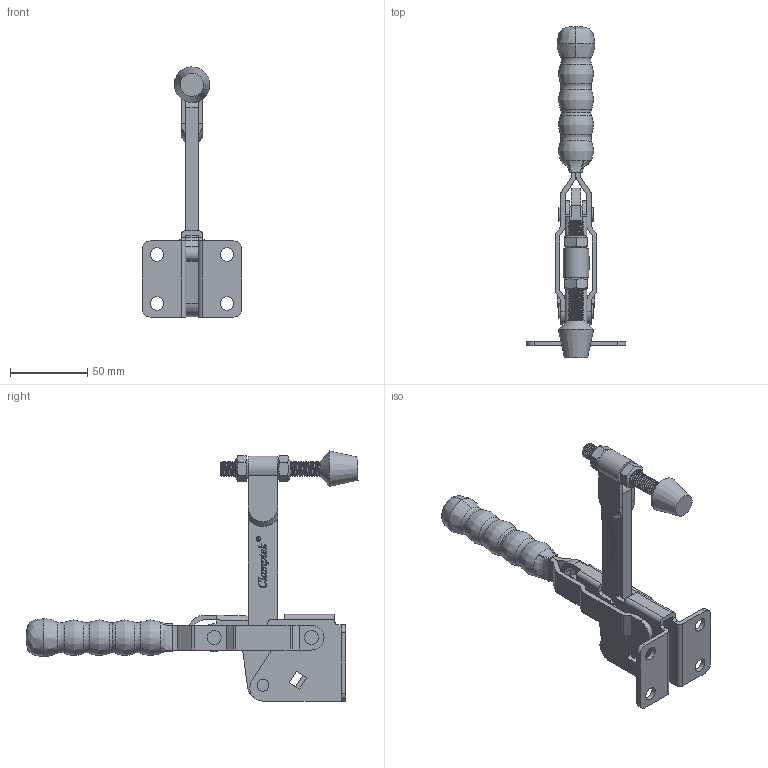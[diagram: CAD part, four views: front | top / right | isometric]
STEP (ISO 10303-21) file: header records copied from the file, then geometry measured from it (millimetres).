
FILE_DESCRIPTION(/* description */ ('STEP AP203'),/* implementation_level */ '2;1');
FILE_NAME(/* name */ 'D:\Vault_2016\Projekty\Clamptek\STRONA\Vertical toggle clamp\CH-12275\CH-12275_ZAMKNIETY.stp',/* time_stamp */ '2019-01-18T13:38:15+01:00',/* author */ ('Łukasz'),/* organization */ ('Î¢ÈíÖÐ¹ú'),/* preprocessor_version */ 'ST-DEVELOPER v17.2',/* originating_system */ 'Autodesk Inventor 2019',/* authorisation */ '');
FILE_SCHEMA (('AUTOMOTIVE_DESIGN { 1 0 10303 214 3 1 1 }'));
Products named in the file (12): CH-12275; CH-12265-03 STRAIGHT HANDLE; CH-12265-05; CH-FC-38312 Nut; CH-12265-01 FLANGED BASE; CH-12265-06; CH-12265-07; CH-12265-08; CH-FC-38312 SPINDLE SUPPLIED; CH-12265-04 CONNECTING-PLATE; CH-12265-09; CH-12275-02 SOLID BAR_Ä¬ÈÏ_°´¼
Ó¹¤_
Assembly tree (16 placements, depth 2):
  CH-12275
    CH-12265-09  x2
    CH-12265-06  x2
    CH-FC-38312 Nut  x2
    CH-12265-05  x2
    CH-12265-03 STRAIGHT HANDLE
    CH-12265-08  x2
    CH-12265-01 FLANGED BASE
    CH-12265-07
    CH-FC-38312 SPINDLE SUPPLIED
    CH-12265-04 CONNECTING-PLATE
    CH-12275-02 SOLID BAR_Ä¬ÈÏ_°´¼
Ó¹¤_
Bounding box: 64.3 x 214.64 x 161.69 mm (x, y, z)
Volume: 114883.1 mm3; surface area: 73161 mm2
Topology: 20 solids, 21 shells, 696 faces, 1944 edges, 1312 vertices
Faces by surface type: plane 301, bspline 181, cylinder 146, cone 63, torus 5
Full cylindrical faces by diameter (mm): 2.627 x1, 2.921 x1, 6.4 x16, 8.7 x4, 9 x4, 9.5 x50, 9.6 x4, 13.856 x1
Entity records: 52694 total; most frequent: CARTESIAN_POINT 36796, ORIENTED_EDGE 3578, DIRECTION 2612, EDGE_CURVE 1789, VERTEX_POINT 1206, LINE 974, VECTOR 974, AXIS2_PLACEMENT_3D 819
